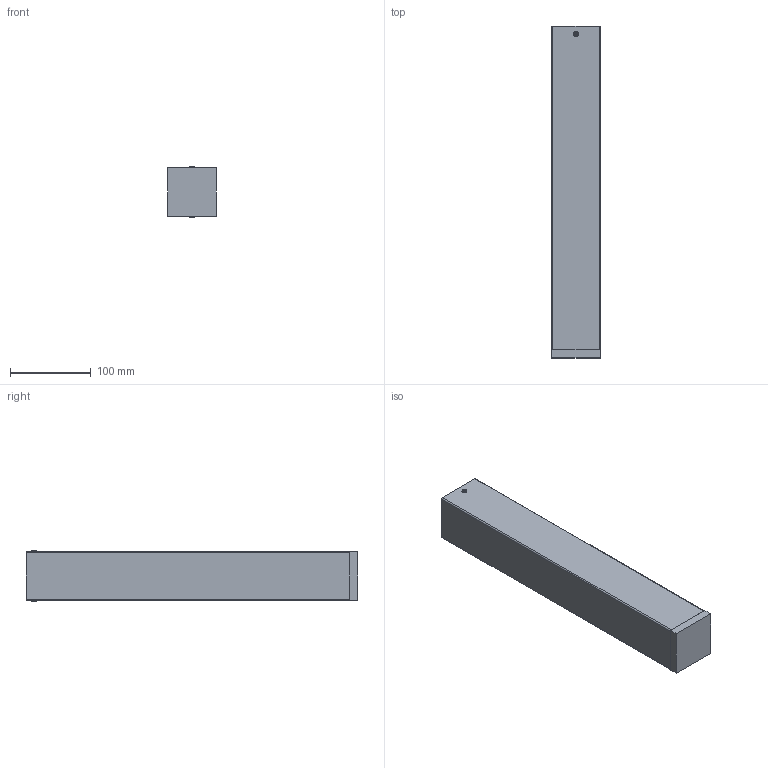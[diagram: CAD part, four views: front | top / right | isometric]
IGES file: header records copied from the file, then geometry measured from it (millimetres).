
Start section: SolidWorks IGES file using analytic representation for surfaces
Global section: file name: C:\Users\Asia\Desktop\Bryce\Bryce_5706,5710,5720\Bryce_5706,5710,5720.IGS; native system: SolidWorks 2016; preprocessor: SolidWorks 2016; author: Asia; date: 160829.081110; units: millimetre
Bounding box: 60 x 410 x 63.4 mm (x, y, z)
Surface area: 205165.2 mm2 (no closed solid volume)
Topology: 0 solids, 0 shells, 96 faces, 1308 edges, 1308 vertices
Faces by surface type: bspline 60, revolution 36
